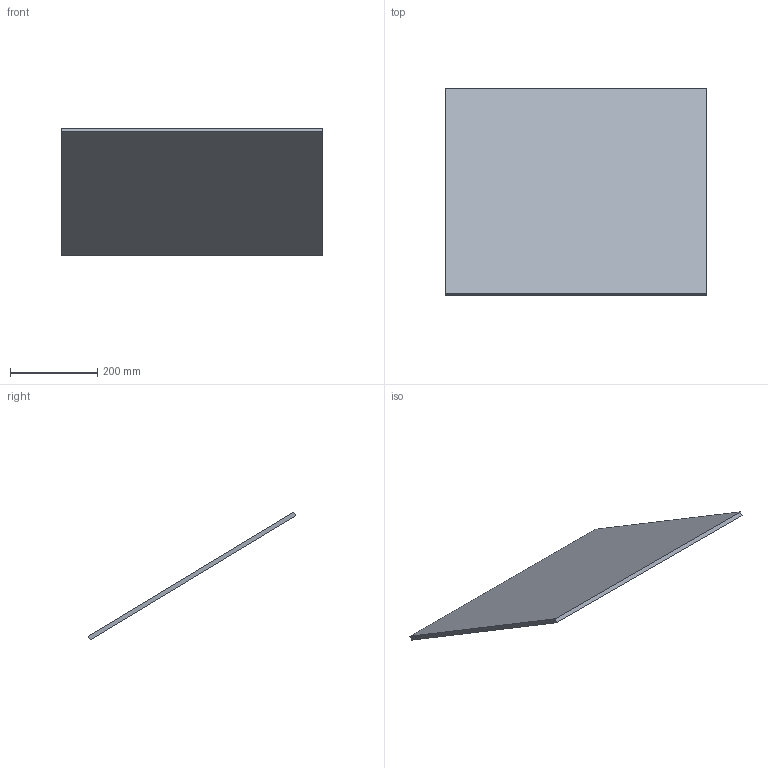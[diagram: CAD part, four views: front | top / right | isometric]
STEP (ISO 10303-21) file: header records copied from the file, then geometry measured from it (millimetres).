
FILE_DESCRIPTION(('Open CASCADE Model'),'2;1');
FILE_NAME('Open CASCADE Shape Model','2026-09-19T12:55:22',('Author'),( 'Open CASCADE'),'Open CASCADE STEP processor 7.9','Open CASCADE 7.9' ,'Unknown');
FILE_SCHEMA(('AUTOMOTIVE_DESIGN { 1 0 10303 214 1 1 1 1 }'));
Length unit declared in the file: millimetre
Products named in the file (1): Open CASCADE STEP translator 7.9 398
Bounding box: 600 x 476 x 292.84 mm (x, y, z)
Volume: 3300000 mm3; surface area: 683000 mm2
Topology: 1 solids, 1 shells, 6 faces, 12 edges, 8 vertices
Faces by surface type: plane 6
Entity records: 322 total; most frequent: CARTESIAN_POINT 51, DIRECTION 50, LINE 36, VECTOR 36, ORIENTED_EDGE 24, PCURVE 24, DEFINITIONAL_REPRESENTATION 24, EDGE_CURVE 12
